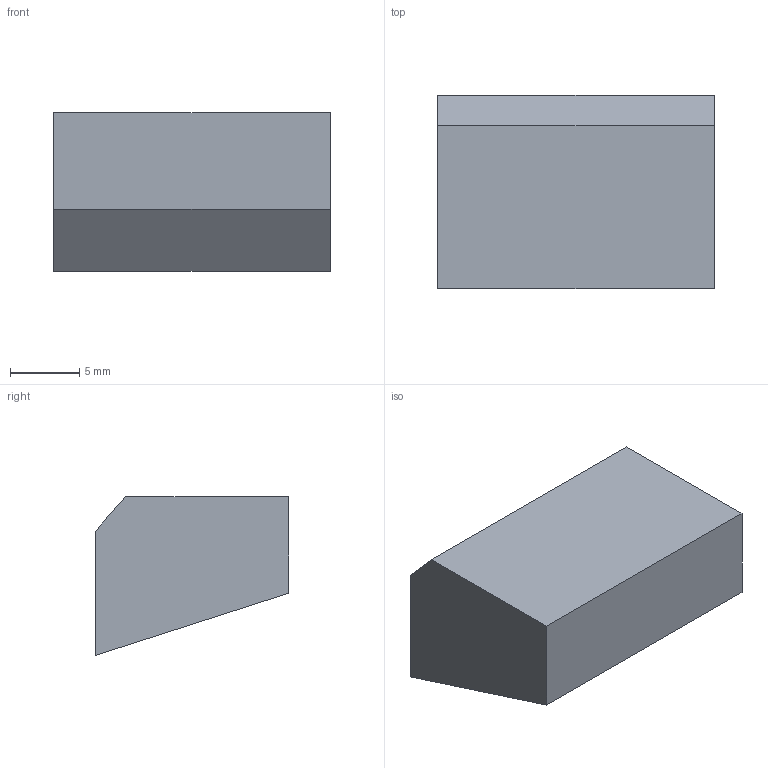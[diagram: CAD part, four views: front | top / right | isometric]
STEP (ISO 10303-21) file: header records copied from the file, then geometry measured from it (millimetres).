
FILE_DESCRIPTION(('Open CASCADE Model'),'2;1');
FILE_NAME('Open CASCADE Shape Model','2026-10-16T00:30:56',('Author'),( 'Open CASCADE'),'Open CASCADE STEP processor 7.9','Open CASCADE 7.9' ,'Unknown');
FILE_SCHEMA(('AUTOMOTIVE_DESIGN { 1 0 10303 214 1 1 1 1 }'));
Length unit declared in the file: millimetre
Products named in the file (1): Open CASCADE STEP translator 7.9 18
Bounding box: 20 x 14 x 11.5 mm (x, y, z)
Volume: 2535 mm3; surface area: 1170.2 mm2
Topology: 1 solids, 1 shells, 7 faces, 15 edges, 10 vertices
Faces by surface type: plane 7
Entity records: 394 total; most frequent: CARTESIAN_POINT 63, DIRECTION 61, LINE 45, VECTOR 45, ORIENTED_EDGE 30, PCURVE 30, DEFINITIONAL_REPRESENTATION 30, EDGE_CURVE 15
